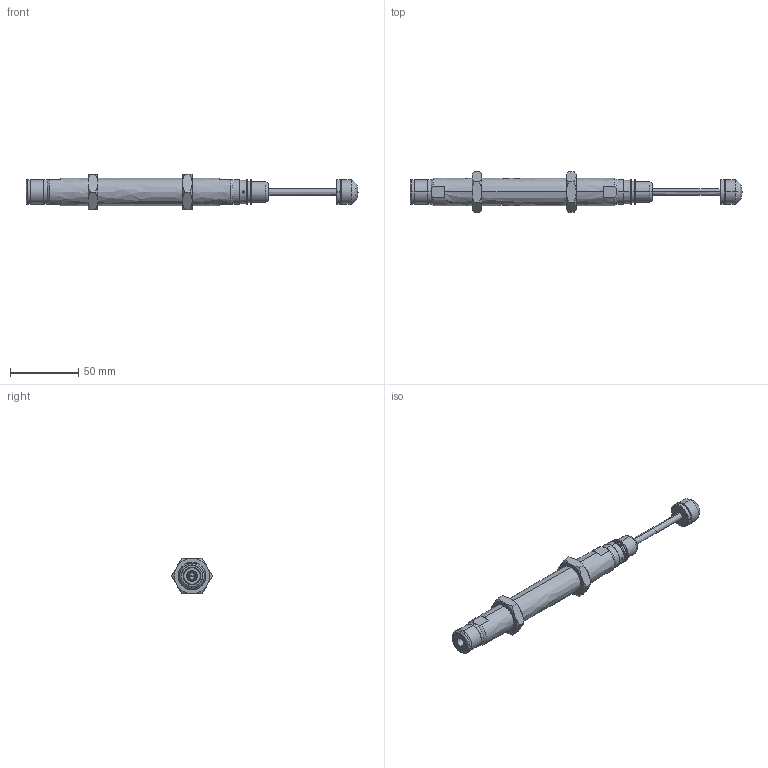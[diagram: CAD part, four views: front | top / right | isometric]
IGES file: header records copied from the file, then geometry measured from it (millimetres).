
Start section: SolidWorks IGES file using analytic representation for surfaces
Global section: file name: D:\IGS跡宒\AC2050D-14K.IGS,1; native system: 5HSolidWorks 2013; preprocessor: SolidWorks 2013; author: Administrator; date: 160920.093646; units: inch
Bounding box: 244 x 30.02 x 26 mm (x, y, z)
Surface area: 17579.9 mm2 (no closed solid volume)
Topology: 0 solids, 0 shells, 133 faces, 2156 edges, 2155 vertices
Faces by surface type: revolution 94, bspline 39
